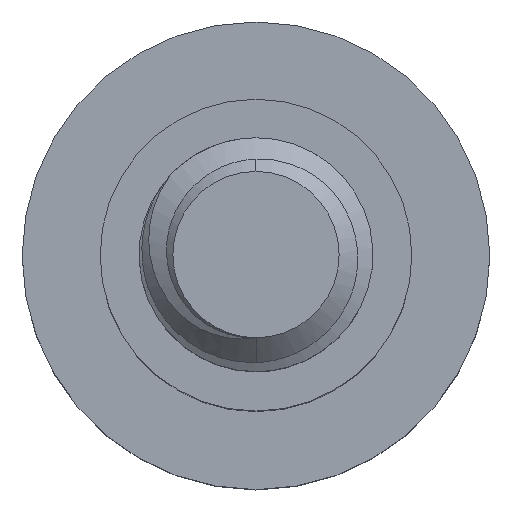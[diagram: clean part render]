
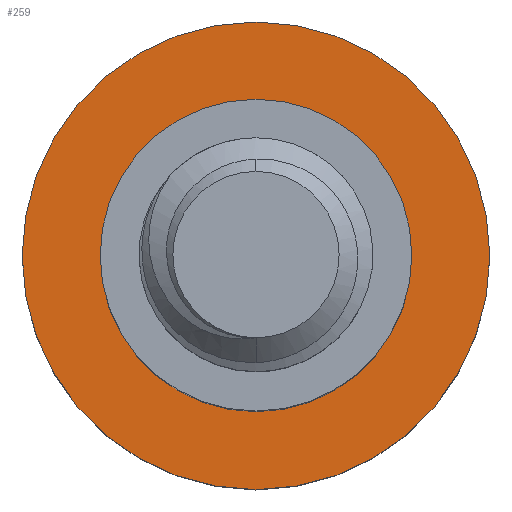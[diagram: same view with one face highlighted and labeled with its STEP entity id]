
A CAD part, top view. The second image highlights one B-rep face of the part: STEP entity #259.
In plain terms, the highlighted planar face has unit normal (0, 0, 1).
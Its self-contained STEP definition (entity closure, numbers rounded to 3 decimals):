
#11 = EDGE_CURVE ( 'NONE', #1977, #1842, #1019, .T. ) ;
#26 = DIRECTION ( 'NONE',  ( -1., 0., 0. ) ) ;
#34 = CARTESIAN_POINT ( 'NONE',  ( 2., 0., -5. ) ) ;
#37 = CIRCLE ( 'NONE', #1878, 3. ) ;
#229 = EDGE_CURVE ( 'NONE', #438, #1900, #37, .T. ) ;
#259 = ADVANCED_FACE ( 'NONE', ( #1779, #714 ), #1615, .F. ) ;
#280 = ORIENTED_EDGE ( 'NONE', *, *, #229, .F. ) ;
#330 = CARTESIAN_POINT ( 'NONE',  ( 0., 0., -5. ) ) ;
#363 = CARTESIAN_POINT ( 'NONE',  ( 0., 0., -5. ) ) ;
#438 = VERTEX_POINT ( 'NONE', #1142 ) ;
#554 = CIRCLE ( 'NONE', #1470, 3. ) ;
#583 = CARTESIAN_POINT ( 'NONE',  ( -2., 0., -5. ) ) ;
#607 = EDGE_CURVE ( 'NONE', #1842, #1977, #696, .T. ) ;
#624 = AXIS2_PLACEMENT_3D ( 'NONE', #1688, #1524, #2038 ) ;
#696 = CIRCLE ( 'NONE', #1424, 2. ) ;
#714 = FACE_OUTER_BOUND ( 'NONE', #1633, .T. ) ;
#895 = DIRECTION ( 'NONE',  ( 0., 0., -1. ) ) ;
#1019 = CIRCLE ( 'NONE', #624, 2. ) ;
#1052 = DIRECTION ( 'NONE',  ( -1., 0., 0. ) ) ;
#1142 = CARTESIAN_POINT ( 'NONE',  ( -3., 0., -5. ) ) ;
#1179 = DIRECTION ( 'NONE',  ( 0., 0., -1. ) ) ;
#1199 = ORIENTED_EDGE ( 'NONE', *, *, #11, .T. ) ;
#1405 = CARTESIAN_POINT ( 'NONE',  ( 0., 0., -5. ) ) ;
#1424 = AXIS2_PLACEMENT_3D ( 'NONE', #363, #1179, #1052 ) ;
#1470 = AXIS2_PLACEMENT_3D ( 'NONE', #330, #895, #1916 ) ;
#1524 = DIRECTION ( 'NONE',  ( 0., 0., -1. ) ) ;
#1561 = AXIS2_PLACEMENT_3D ( 'NONE', #1405, #2092, #1929 ) ;
#1588 = CARTESIAN_POINT ( 'NONE',  ( 0., 0., -5. ) ) ;
#1615 = PLANE ( 'NONE',  #1561 ) ;
#1633 = EDGE_LOOP ( 'NONE', ( #2141, #280 ) ) ;
#1688 = CARTESIAN_POINT ( 'NONE',  ( 0., 0., -5. ) ) ;
#1779 = FACE_BOUND ( 'NONE', #2053, .T. ) ;
#1842 = VERTEX_POINT ( 'NONE', #34 ) ;
#1857 = ORIENTED_EDGE ( 'NONE', *, *, #607, .T. ) ;
#1878 = AXIS2_PLACEMENT_3D ( 'NONE', #1588, #1915, #26 ) ;
#1900 = VERTEX_POINT ( 'NONE', #2160 ) ;
#1915 = DIRECTION ( 'NONE',  ( 0., 0., -1. ) ) ;
#1916 = DIRECTION ( 'NONE',  ( -1., 0., 0. ) ) ;
#1929 = DIRECTION ( 'NONE',  ( -1., 0., 0. ) ) ;
#1977 = VERTEX_POINT ( 'NONE', #583 ) ;
#2038 = DIRECTION ( 'NONE',  ( -1., 0., 0. ) ) ;
#2053 = EDGE_LOOP ( 'NONE', ( #1199, #1857 ) ) ;
#2092 = DIRECTION ( 'NONE',  ( 0., 0., -1. ) ) ;
#2141 = ORIENTED_EDGE ( 'NONE', *, *, #2198, .F. ) ;
#2160 = CARTESIAN_POINT ( 'NONE',  ( 3., 0., -5. ) ) ;
#2198 = EDGE_CURVE ( 'NONE', #1900, #438, #554, .T. ) ;
